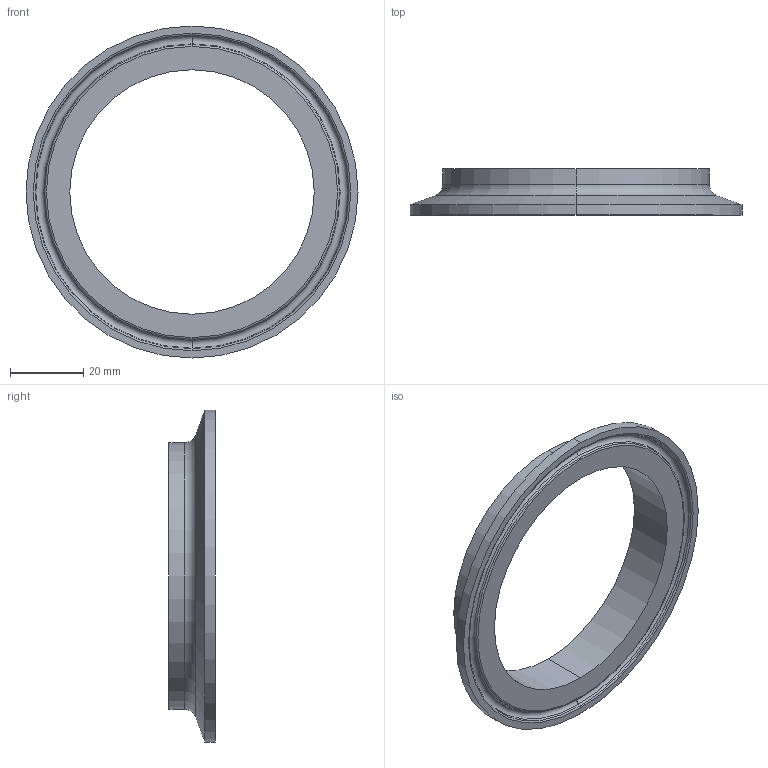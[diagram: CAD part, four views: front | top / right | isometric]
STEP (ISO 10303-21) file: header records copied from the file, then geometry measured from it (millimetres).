
FILE_DESCRIPTION (( 'STEP AP214' ), '1' );
FILE_NAME ('EG2CS-10-2.5.STEP', '2025-07-30T17:57:17', ( '' ), ( '' ), 'SwSTEP 2.0', 'SolidWorks 2022', '' );
FILE_SCHEMA (( 'AUTOMOTIVE_DESIGN' ));
Length unit declared in the file: inch
Products named in the file (1): EG2CS-10-2.5
Bounding box: 90.91 x 12.7 x 90.91 mm (x, y, z)
Volume: 17978.9 mm3; surface area: 11379.8 mm2
Topology: 1 solids, 1 shells, 23 faces, 46 edges, 26 vertices
Faces by surface type: torus 8, cylinder 6, cone 6, plane 3
Entity records: 646 total; most frequent: DIRECTION 128, CARTESIAN_POINT 96, ORIENTED_EDGE 92, AXIS2_PLACEMENT_3D 58, EDGE_CURVE 46, CIRCLE 34, VERTEX_POINT 26, EDGE_LOOP 26
